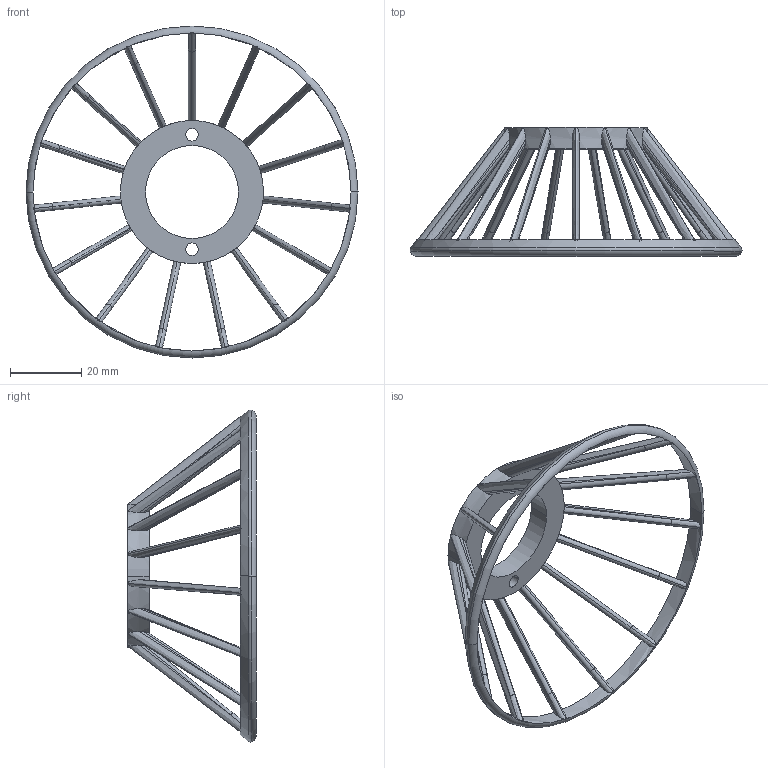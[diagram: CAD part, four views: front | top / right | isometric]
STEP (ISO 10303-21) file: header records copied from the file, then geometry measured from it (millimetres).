
FILE_DESCRIPTION (( 'STEP AP203' ), '1' );
FILE_NAME ('T200网罩（上）.STEP', '2022-04-03T13:09:24', ( '' ), ( '' ), 'SwSTEP 2.0', 'SolidWorks 2020', '' );
FILE_SCHEMA (( 'CONFIG_CONTROL_DESIGN' ));
Length unit declared in the file: millimetre
Products named in the file (1): T200厙欶ㄗ奻ㄘ
Bounding box: 92.91 x 36 x 92.91 mm (x, y, z)
Volume: 8972.2 mm3; surface area: 10684.2 mm2
Topology: 1 solids, 1 shells, 158 faces, 415 edges, 229 vertices
Faces by surface type: cylinder 60, bspline 60, plane 32, torus 4, cone 2
Entity records: 8035 total; most frequent: CARTESIAN_POINT 4787, ORIENTED_EDGE 830, DIRECTION 432, EDGE_CURVE 415, B_SPLINE_CURVE_WITH_KNOTS 252, VERTEX_POINT 229, AXIS2_PLACEMENT_3D 170, EDGE_LOOP 164
